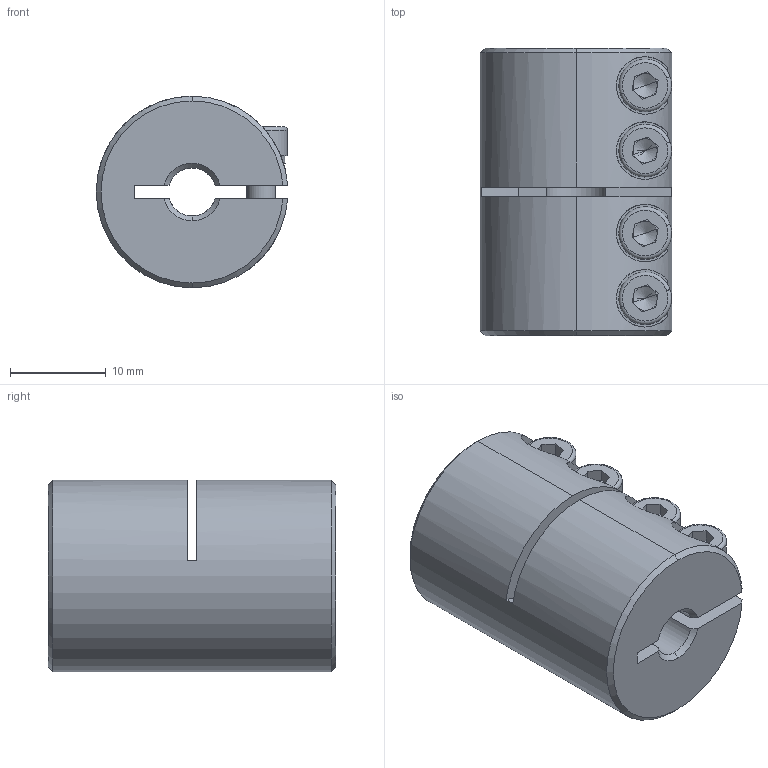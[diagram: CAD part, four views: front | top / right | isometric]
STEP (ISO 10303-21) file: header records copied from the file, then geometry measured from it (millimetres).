
FILE_DESCRIPTION (( 'STEP AP203' ), '1' );
FILE_NAME ('LL-B-D20L30-5-6.35.STEP', '2021-11-05T03:08:20', ( '' ), ( '' ), 'SwSTEP 2.0', 'SolidWorks 2018', '' );
FILE_SCHEMA (( 'CONFIG_CONTROL_DESIGN' ));
Length unit declared in the file: millimetre
Products named in the file (1): LL-B-D20L30-5-6.35
Bounding box: 19.98 x 30 x 20 mm (x, y, z)
Volume: 7929.6 mm3; surface area: 4537.3 mm2
Topology: 1 solids, 1 shells, 178 faces, 459 edges, 287 vertices
Faces by surface type: plane 89, cylinder 61, cone 20, torus 8
Entity records: 5821 total; most frequent: CARTESIAN_POINT 1349, DIRECTION 958, ORIENTED_EDGE 902, EDGE_CURVE 451, AXIS2_PLACEMENT_3D 368, VERTEX_POINT 287, LINE 222, VECTOR 222
